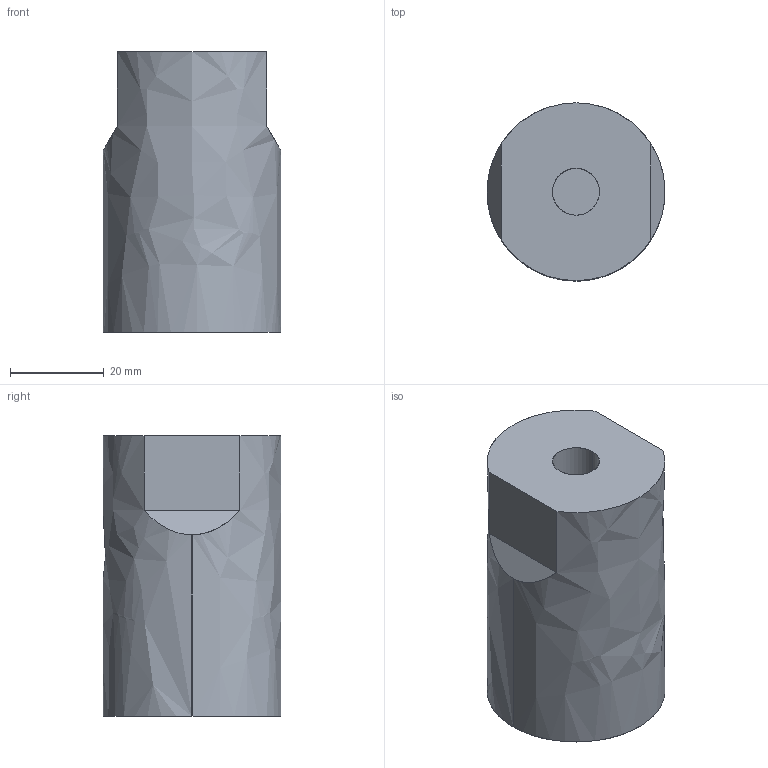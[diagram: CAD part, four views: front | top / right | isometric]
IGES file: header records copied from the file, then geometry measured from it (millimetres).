
Global section: file name: E:\UnigraphicsGraphicData\MISUMI_PRESS-PARTS\IGES\3d_sbvm38-60-r_00166_r00.igs; native system: NX V5.0; preprocessor: UGS NX IGES V5.0; author: MISUMI; date: 20110105.162514; units: millimetre
Bounding box: 38 x 38 x 60 mm (x, y, z)
Surface area: 9960.5 mm2 (no closed solid volume)
Topology: 0 solids, 0 shells, 11 faces, 83 edges, 83 vertices
Faces by surface type: bspline 11
